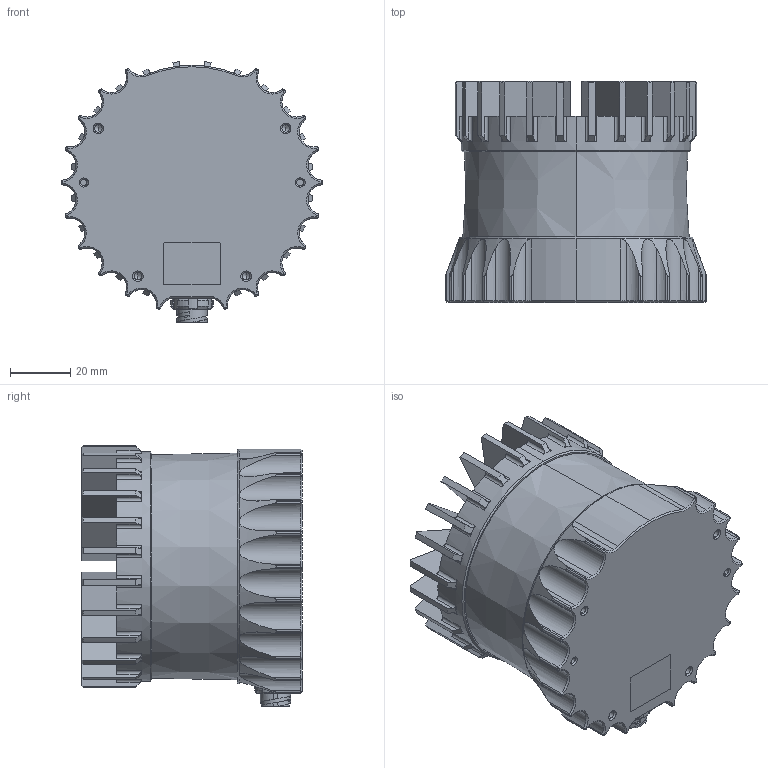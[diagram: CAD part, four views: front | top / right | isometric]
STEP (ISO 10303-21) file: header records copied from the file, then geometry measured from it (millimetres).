
FILE_DESCRIPTION (( 'STEP AP214' ), '1' );
FILE_NAME ('840-102145-D-SensorAssemblyOS1.STEP', '2020-12-14T19:14:40', ( '' ), ( '' ), 'SwSTEP 2.0', 'SolidWorks 2020', '' );
FILE_SCHEMA (( 'AUTOMOTIVE_DESIGN' ));
Length unit declared in the file: millimetre
Products named in the file (1): 840-102145-D-SensorAssemblyOS1
Bounding box: 87 x 73.5 x 86.71 mm (x, y, z)
Volume: 298642.5 mm3; surface area: 42453.8 mm2
Topology: 1 solids, 1 shells, 1295 faces, 3299 edges, 2050 vertices
Faces by surface type: cone 426, cylinder 417, plane 378, bspline 64, torus 8, sphere 2
Entity records: 57382 total; most frequent: CARTESIAN_POINT 19476, ORIENTED_EDGE 6486, DIRECTION 6301, EDGE_CURVE 3243, AXIS2_PLACEMENT_3D 2448, VERTEX_POINT 2050, VECTOR 1405, LINE 1405
